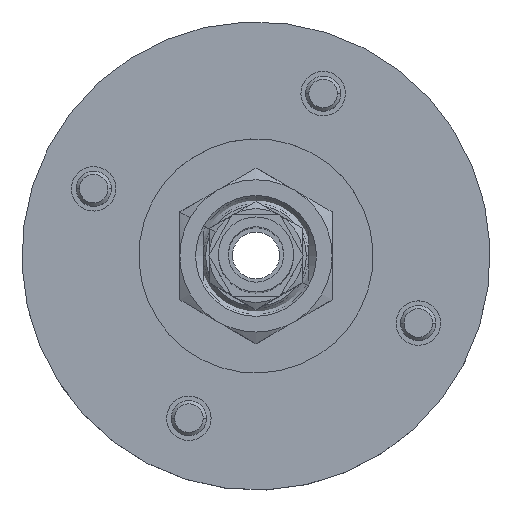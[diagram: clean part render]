
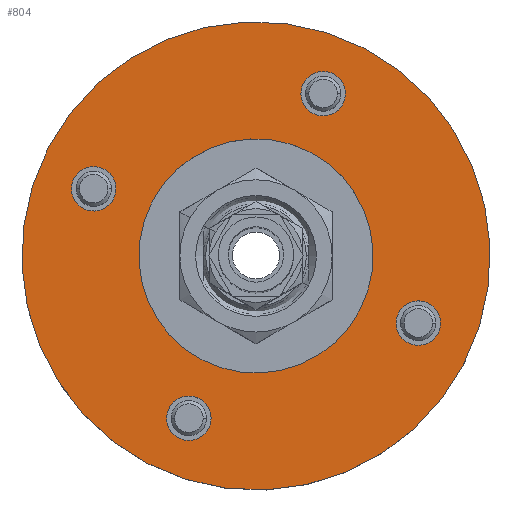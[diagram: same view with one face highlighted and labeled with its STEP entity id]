
A CAD part, top view. The second image highlights one B-rep face of the part: STEP entity #804.
In plain terms, the highlighted planar face has unit normal (0, 0, 1).
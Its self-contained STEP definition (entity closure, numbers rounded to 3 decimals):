
#17 = CIRCLE ( 'NONE', #3040, 1.9 ) ;
#23 = DIRECTION ( 'NONE',  ( 0., 0., 1. ) ) ;
#56 = CARTESIAN_POINT ( 'NONE',  ( -9.431, 12.285, 24.136 ) ) ;
#161 = CIRCLE ( 'NONE', #4529, 1.9 ) ;
#345 = VERTEX_POINT ( 'NONE', #5380 ) ;
#355 = DIRECTION ( 'NONE',  ( -0.924, -0.383, 0. ) ) ;
#360 = ORIENTED_EDGE ( 'NONE', *, *, #7322, .F. ) ;
#592 = DIRECTION ( 'NONE',  ( 0., 0., -1. ) ) ;
#719 = FACE_BOUND ( 'NONE', #3343, .T. ) ;
#804 = ADVANCED_FACE ( 'NONE', ( #6091, #719, #8733, #10746, #2426, #9660 ), #6924, .F. ) ;
#1107 = ORIENTED_EDGE ( 'NONE', *, *, #5662, .F. ) ;
#1311 = EDGE_CURVE ( 'NONE', #5881, #2941, #10535, .T. ) ;
#1469 = CARTESIAN_POINT ( 'NONE',  ( 21.8, 2.271, 24.136 ) ) ;
#1510 = CARTESIAN_POINT ( 'NONE',  ( -5.921, 13.74, 24.136 ) ) ;
#1779 = CARTESIAN_POINT ( 'NONE',  ( 6.184, 7.278, 24.136 ) ) ;
#1807 = DIRECTION ( 'NONE',  ( 0., 0., -1. ) ) ;
#1852 = AXIS2_PLACEMENT_3D ( 'NONE', #10613, #9695, #4200 ) ;
#2100 = ORIENTED_EDGE ( 'NONE', *, *, #7034, .F. ) ;
#2426 = FACE_BOUND ( 'NONE', #9169, .T. ) ;
#2460 = ORIENTED_EDGE ( 'NONE', *, *, #9845, .T. ) ;
#2690 = DIRECTION ( 'NONE',  ( 0.924, 0.383, 0. ) ) ;
#2704 = DIRECTION ( 'NONE',  ( -0.924, -0.383, 0. ) ) ;
#2717 = CIRCLE ( 'NONE', #6558, 1.9 ) ;
#2921 = EDGE_LOOP ( 'NONE', ( #7478, #360 ) ) ;
#2941 = VERTEX_POINT ( 'NONE', #6334 ) ;
#2960 = CARTESIAN_POINT ( 'NONE',  ( -12.29, -0.383, 24.136 ) ) ;
#2972 = ORIENTED_EDGE ( 'NONE', *, *, #6576, .T. ) ;
#3004 = ORIENTED_EDGE ( 'NONE', *, *, #10783, .T. ) ;
#3040 = AXIS2_PLACEMENT_3D ( 'NONE', #4665, #1807, #5464 ) ;
#3125 = EDGE_CURVE ( 'NONE', #9659, #4526, #10014, .T. ) ;
#3253 = ORIENTED_EDGE ( 'NONE', *, *, #8397, .T. ) ;
#3343 = EDGE_LOOP ( 'NONE', ( #2972, #8880 ) ) ;
#3383 = EDGE_CURVE ( 'NONE', #9504, #345, #11773, .T. ) ;
#3435 = DIRECTION ( 'NONE',  ( -0.924, -0.383, 0. ) ) ;
#3474 = CARTESIAN_POINT ( 'NONE',  ( 11.919, 21.138, 24.136 ) ) ;
#3533 = CARTESIAN_POINT ( 'NONE',  ( 6.184, 7.278, 24.136 ) ) ;
#3592 = CARTESIAN_POINT ( 'NONE',  ( 0.45, -6.583, 24.136 ) ) ;
#3662 = VERTEX_POINT ( 'NONE', #9273 ) ;
#3964 = EDGE_CURVE ( 'NONE', #4057, #11312, #17, .T. ) ;
#4057 = VERTEX_POINT ( 'NONE', #1510 ) ;
#4087 = CARTESIAN_POINT ( 'NONE',  ( 20.045, 1.543, 24.136 ) ) ;
#4100 = CARTESIAN_POINT ( 'NONE',  ( 24.659, 14.939, 24.136 ) ) ;
#4101 = AXIS2_PLACEMENT_3D ( 'NONE', #3474, #7144, #10257 ) ;
#4149 = DIRECTION ( 'NONE',  ( 0., 0., -1. ) ) ;
#4157 = VERTEX_POINT ( 'NONE', #2960 ) ;
#4200 = DIRECTION ( 'NONE',  ( -0.924, -0.383, 0. ) ) ;
#4250 = EDGE_LOOP ( 'NONE', ( #3004, #10198 ) ) ;
#4521 = CIRCLE ( 'NONE', #11289, 1.9 ) ;
#4526 = VERTEX_POINT ( 'NONE', #5046 ) ;
#4529 = AXIS2_PLACEMENT_3D ( 'NONE', #5564, #6361, #7264 ) ;
#4541 = DIRECTION ( 'NONE',  ( 0., 0., -1. ) ) ;
#4602 = DIRECTION ( 'NONE',  ( -0.924, -0.383, 0. ) ) ;
#4665 = CARTESIAN_POINT ( 'NONE',  ( -7.676, 13.013, 24.136 ) ) ;
#4799 = CARTESIAN_POINT ( 'NONE',  ( 13.674, 21.866, 24.136 ) ) ;
#4811 = DIRECTION ( 'NONE',  ( -0.924, -0.383, 0. ) ) ;
#5046 = CARTESIAN_POINT ( 'NONE',  ( 10.164, 20.411, 24.136 ) ) ;
#5380 = CARTESIAN_POINT ( 'NONE',  ( -3.053, 3.447, 24.136 ) ) ;
#5464 = DIRECTION ( 'NONE',  ( -0.924, -0.383, 0. ) ) ;
#5564 = CARTESIAN_POINT ( 'NONE',  ( 0.45, -6.583, 24.136 ) ) ;
#5640 = CIRCLE ( 'NONE', #4101, 1.9 ) ;
#5662 = EDGE_CURVE ( 'NONE', #7393, #4157, #6489, .T. ) ;
#5732 = EDGE_LOOP ( 'NONE', ( #3253, #11819 ) ) ;
#5881 = VERTEX_POINT ( 'NONE', #1469 ) ;
#6091 = FACE_BOUND ( 'NONE', #2921, .T. ) ;
#6334 = CARTESIAN_POINT ( 'NONE',  ( 18.29, 0.815, 24.136 ) ) ;
#6361 = DIRECTION ( 'NONE',  ( 0., 0., -1. ) ) ;
#6472 = AXIS2_PLACEMENT_3D ( 'NONE', #8839, #592, #3435 ) ;
#6489 = CIRCLE ( 'NONE', #8220, 20. ) ;
#6558 = AXIS2_PLACEMENT_3D ( 'NONE', #6958, #10650, #9802 ) ;
#6576 = EDGE_CURVE ( 'NONE', #4526, #9659, #5640, .T. ) ;
#6924 = PLANE ( 'NONE',  #1852 ) ;
#6958 = CARTESIAN_POINT ( 'NONE',  ( -7.676, 13.013, 24.136 ) ) ;
#7034 = EDGE_CURVE ( 'NONE', #4157, #7393, #10103, .T. ) ;
#7144 = DIRECTION ( 'NONE',  ( 0., 0., -1. ) ) ;
#7186 = CIRCLE ( 'NONE', #9681, 10. ) ;
#7264 = DIRECTION ( 'NONE',  ( -0.924, -0.383, 0. ) ) ;
#7282 = ORIENTED_EDGE ( 'NONE', *, *, #3964, .T. ) ;
#7322 = EDGE_CURVE ( 'NONE', #345, #9504, #7186, .T. ) ;
#7393 = VERTEX_POINT ( 'NONE', #4100 ) ;
#7457 = DIRECTION ( 'NONE',  ( 0., 0., -1. ) ) ;
#7478 = ORIENTED_EDGE ( 'NONE', *, *, #3383, .F. ) ;
#7690 = CARTESIAN_POINT ( 'NONE',  ( 6.184, 7.278, 24.136 ) ) ;
#7729 = EDGE_CURVE ( 'NONE', #8457, #3662, #9912, .T. ) ;
#7756 = CARTESIAN_POINT ( 'NONE',  ( 11.919, 21.138, 24.136 ) ) ;
#8094 = AXIS2_PLACEMENT_3D ( 'NONE', #1779, #10037, #8272 ) ;
#8220 = AXIS2_PLACEMENT_3D ( 'NONE', #7690, #9484, #11427 ) ;
#8272 = DIRECTION ( 'NONE',  ( 0.924, 0.383, 0. ) ) ;
#8397 = EDGE_CURVE ( 'NONE', #2941, #5881, #4521, .T. ) ;
#8457 = VERTEX_POINT ( 'NONE', #10796 ) ;
#8733 = FACE_BOUND ( 'NONE', #5732, .T. ) ;
#8839 = CARTESIAN_POINT ( 'NONE',  ( 20.045, 1.543, 24.136 ) ) ;
#8880 = ORIENTED_EDGE ( 'NONE', *, *, #3125, .T. ) ;
#8956 = EDGE_LOOP ( 'NONE', ( #1107, #2100 ) ) ;
#9118 = AXIS2_PLACEMENT_3D ( 'NONE', #3592, #7457, #4602 ) ;
#9169 = EDGE_LOOP ( 'NONE', ( #2460, #7282 ) ) ;
#9273 = CARTESIAN_POINT ( 'NONE',  ( -1.305, -7.31, 24.136 ) ) ;
#9322 = CARTESIAN_POINT ( 'NONE',  ( 15.422, 11.108, 24.136 ) ) ;
#9484 = DIRECTION ( 'NONE',  ( 0., 0., -1. ) ) ;
#9504 = VERTEX_POINT ( 'NONE', #9322 ) ;
#9637 = DIRECTION ( 'NONE',  ( 0., 0., -1. ) ) ;
#9659 = VERTEX_POINT ( 'NONE', #4799 ) ;
#9660 = FACE_OUTER_BOUND ( 'NONE', #8956, .T. ) ;
#9681 = AXIS2_PLACEMENT_3D ( 'NONE', #11800, #23, #2690 ) ;
#9695 = DIRECTION ( 'NONE',  ( 0., 0., -1. ) ) ;
#9802 = DIRECTION ( 'NONE',  ( -0.924, -0.383, 0. ) ) ;
#9845 = EDGE_CURVE ( 'NONE', #11312, #4057, #2717, .T. ) ;
#9912 = CIRCLE ( 'NONE', #9118, 1.9 ) ;
#10014 = CIRCLE ( 'NONE', #11362, 1.9 ) ;
#10037 = DIRECTION ( 'NONE',  ( 0., 0., 1. ) ) ;
#10103 = CIRCLE ( 'NONE', #11068, 20. ) ;
#10198 = ORIENTED_EDGE ( 'NONE', *, *, #7729, .T. ) ;
#10257 = DIRECTION ( 'NONE',  ( -0.924, -0.383, 0. ) ) ;
#10535 = CIRCLE ( 'NONE', #6472, 1.9 ) ;
#10613 = CARTESIAN_POINT ( 'NONE',  ( 6.184, 7.278, 24.136 ) ) ;
#10650 = DIRECTION ( 'NONE',  ( 0., 0., -1. ) ) ;
#10746 = FACE_BOUND ( 'NONE', #4250, .T. ) ;
#10783 = EDGE_CURVE ( 'NONE', #3662, #8457, #161, .T. ) ;
#10796 = CARTESIAN_POINT ( 'NONE',  ( 2.205, -5.855, 24.136 ) ) ;
#11068 = AXIS2_PLACEMENT_3D ( 'NONE', #3533, #4541, #2704 ) ;
#11289 = AXIS2_PLACEMENT_3D ( 'NONE', #4087, #4149, #355 ) ;
#11312 = VERTEX_POINT ( 'NONE', #56 ) ;
#11362 = AXIS2_PLACEMENT_3D ( 'NONE', #7756, #9637, #4811 ) ;
#11427 = DIRECTION ( 'NONE',  ( -0.924, -0.383, 0. ) ) ;
#11773 = CIRCLE ( 'NONE', #8094, 10. ) ;
#11800 = CARTESIAN_POINT ( 'NONE',  ( 6.184, 7.278, 24.136 ) ) ;
#11819 = ORIENTED_EDGE ( 'NONE', *, *, #1311, .T. ) ;
